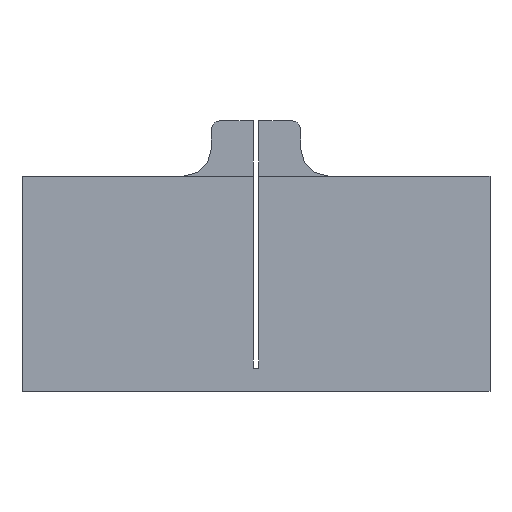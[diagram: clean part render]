
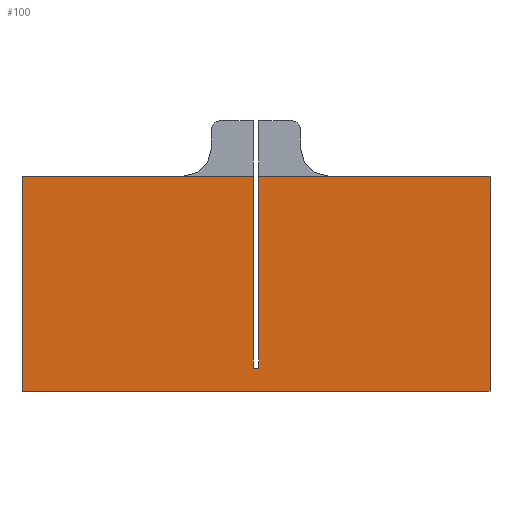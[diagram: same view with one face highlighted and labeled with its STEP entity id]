
A CAD part, front view. The second image highlights one B-rep face of the part: STEP entity #100.
In plain terms, the highlighted planar face has unit normal (0, -1, 0).
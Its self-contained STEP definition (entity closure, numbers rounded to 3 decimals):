
#100=ADVANCED_FACE('',(#160),#1038,.T.);
#160=FACE_OUTER_BOUND('',#221,.T.);
#221=EDGE_LOOP('',(#391,#392,#393,#394,#395,#396,#397,#398));
#391=ORIENTED_EDGE('',*,*,#652,.T.);
#392=ORIENTED_EDGE('',*,*,#653,.T.);
#393=ORIENTED_EDGE('',*,*,#651,.T.);
#394=ORIENTED_EDGE('',*,*,#631,.F.);
#395=ORIENTED_EDGE('',*,*,#626,.F.);
#396=ORIENTED_EDGE('',*,*,#629,.T.);
#397=ORIENTED_EDGE('',*,*,#630,.T.);
#398=ORIENTED_EDGE('',*,*,#667,.F.);
#626=EDGE_CURVE('',#972,#973,#734,.T.);
#629=EDGE_CURVE('',#972,#975,#737,.T.);
#630=EDGE_CURVE('',#975,#976,#738,.T.);
#631=EDGE_CURVE('',#973,#988,#739,.T.);
#651=EDGE_CURVE('',#987,#988,#759,.T.);
#652=EDGE_CURVE('',#989,#990,#760,.T.);
#653=EDGE_CURVE('',#990,#987,#761,.T.);
#667=EDGE_CURVE('',#989,#976,#775,.T.);
#734=B_SPLINE_CURVE_WITH_KNOTS('',1,(#2891,#2892),.UNSPECIFIED.,.F.,.F.,
(2,2),(0.,46.),.UNSPECIFIED.);
#737=B_SPLINE_CURVE_WITH_KNOTS('',1,(#2897,#2898),.UNSPECIFIED.,.F.,.F.,
(2,2),(40.,140.),.UNSPECIFIED.);
#738=B_SPLINE_CURVE_WITH_KNOTS('',1,(#2899,#2900),.UNSPECIFIED.,.F.,.F.,
(2,2),(0.,46.),.UNSPECIFIED.);
#739=B_SPLINE_CURVE_WITH_KNOTS('',1,(#2901,#2902),.UNSPECIFIED.,.F.,.F.,
(2,2),(40.,89.4),.UNSPECIFIED.);
#759=B_SPLINE_CURVE_WITH_KNOTS('',1,(#2941,#2942),.UNSPECIFIED.,.F.,.F.,
(2,2),(-41.,0.),.UNSPECIFIED.);
#760=B_SPLINE_CURVE_WITH_KNOTS('',1,(#2943,#2944),.UNSPECIFIED.,.F.,.F.,
(2,2),(1.2,42.2),.UNSPECIFIED.);
#761=B_SPLINE_CURVE_WITH_KNOTS('',1,(#2945,#2946),.UNSPECIFIED.,.F.,.F.,
(2,2),(42.2,43.4),.UNSPECIFIED.);
#775=B_SPLINE_CURVE_WITH_KNOTS('',1,(#2973,#2974),.UNSPECIFIED.,.F.,.F.,
(2,2),(90.6,140.),.UNSPECIFIED.);
#972=VERTEX_POINT('',#2836);
#973=VERTEX_POINT('',#2837);
#975=VERTEX_POINT('',#2839);
#976=VERTEX_POINT('',#2840);
#987=VERTEX_POINT('',#2851);
#988=VERTEX_POINT('',#2852);
#989=VERTEX_POINT('',#2853);
#990=VERTEX_POINT('',#2854);
#1038=PLANE('',#1202);
#1202=AXIS2_PLACEMENT_3D('',#2776,#1333,$);
#1333=DIRECTION('',(0.,-1.,0.));
#2776=CARTESIAN_POINT('',(-1466.616,-128.23,1422.157));
#2836=CARTESIAN_POINT('',(-1466.616,-128.23,1422.157));
#2837=CARTESIAN_POINT('',(-1466.616,-128.23,1468.157));
#2839=CARTESIAN_POINT('',(-1366.616,-128.23,1422.157));
#2840=CARTESIAN_POINT('',(-1366.616,-128.23,1468.157));
#2851=CARTESIAN_POINT('',(-1417.216,-128.23,1427.157));
#2852=CARTESIAN_POINT('',(-1417.216,-128.23,1468.157));
#2853=CARTESIAN_POINT('',(-1416.016,-128.23,1468.157));
#2854=CARTESIAN_POINT('',(-1416.016,-128.23,1427.157));
#2891=CARTESIAN_POINT('',(-1466.616,-128.23,1422.157));
#2892=CARTESIAN_POINT('',(-1466.616,-128.23,1468.157));
#2897=CARTESIAN_POINT('',(-1466.616,-128.23,1422.157));
#2898=CARTESIAN_POINT('',(-1366.616,-128.23,1422.157));
#2899=CARTESIAN_POINT('',(-1366.616,-128.23,1422.157));
#2900=CARTESIAN_POINT('',(-1366.616,-128.23,1468.157));
#2901=CARTESIAN_POINT('',(-1466.616,-128.23,1468.157));
#2902=CARTESIAN_POINT('',(-1417.216,-128.23,1468.157));
#2941=CARTESIAN_POINT('',(-1417.216,-128.23,1427.157));
#2942=CARTESIAN_POINT('',(-1417.216,-128.23,1468.157));
#2943=CARTESIAN_POINT('',(-1416.016,-128.23,1468.157));
#2944=CARTESIAN_POINT('',(-1416.016,-128.23,1427.157));
#2945=CARTESIAN_POINT('',(-1416.016,-128.23,1427.157));
#2946=CARTESIAN_POINT('',(-1417.216,-128.23,1427.157));
#2973=CARTESIAN_POINT('',(-1416.016,-128.23,1468.157));
#2974=CARTESIAN_POINT('',(-1366.616,-128.23,1468.157));
